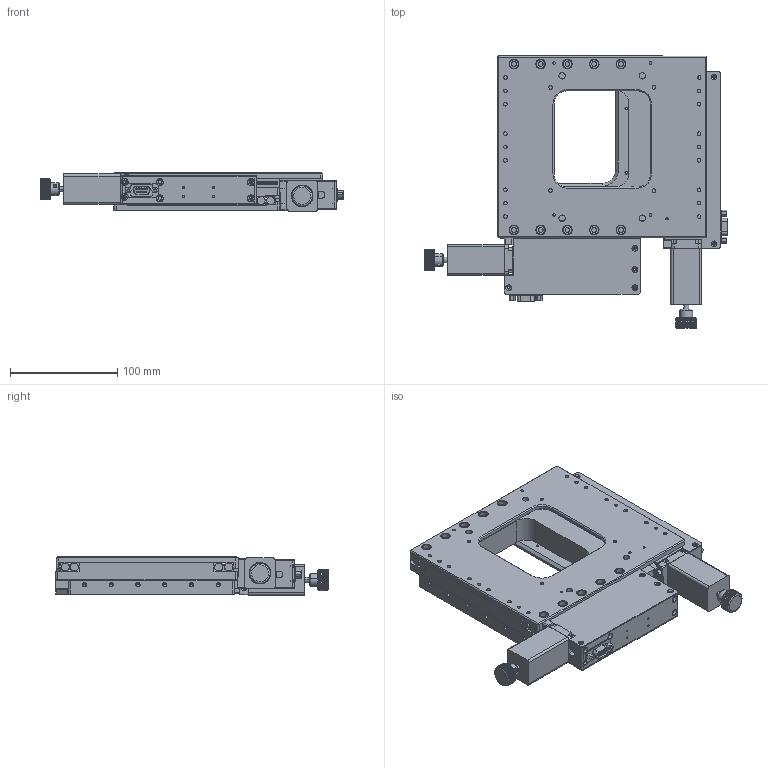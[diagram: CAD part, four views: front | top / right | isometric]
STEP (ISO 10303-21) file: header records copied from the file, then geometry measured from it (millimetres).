
FILE_DESCRIPTION (( 'STEP AP203' ), '1' );
FILE_NAME ('XY两维整体高精度电动平移台【20200112】.STEP', '2026-01-12T10:40:10', ( '' ), ( '' ), 'SwSTEP 2.0', 'SolidWorks 2016', '' );
FILE_SCHEMA (( 'CONFIG_CONTROL_DESIGN' ));
Length unit declared in the file: millimetre
Products named in the file (1): XY两维整体高精度电动平移台【20200112】
Bounding box: 284 x 255 x 35.75 mm (x, y, z)
Surface area: 272887 mm2 (no closed solid volume)
Topology: 0 solids, 68 shells, 1387 faces, 5325 edges, 3947 vertices
Faces by surface type: cylinder 636, plane 588, cone 152, torus 6, bspline 5
Entity records: 64574 total; most frequent: CARTESIAN_POINT 20625, DIRECTION 8786, ORIENTED_EDGE 8446, EDGE_CURVE 5325, VERTEX_POINT 3947, AXIS2_PLACEMENT_3D 3282, LINE 2222, VECTOR 2222
